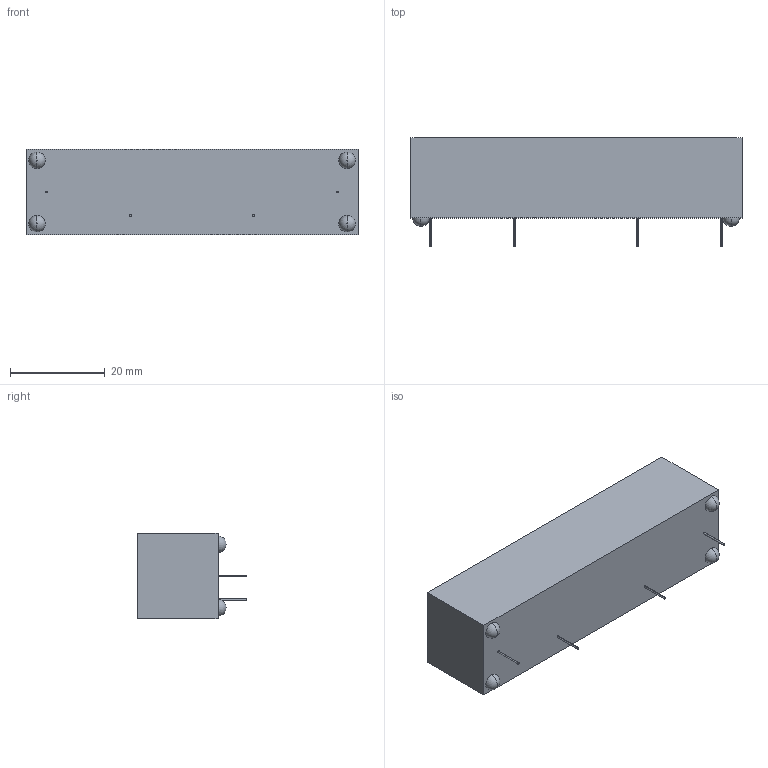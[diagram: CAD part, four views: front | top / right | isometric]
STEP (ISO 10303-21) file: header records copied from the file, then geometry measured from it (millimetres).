
FILE_DESCRIPTION (( 'STEP AP203' ), '1' );
FILE_NAME ('RA1NAC3.STEP', '2019-07-05T17:44:05', ( '' ), ( '' ), 'SwSTEP 2.0', 'SolidWorks 2012', '' );
FILE_SCHEMA (( 'CONFIG_CONTROL_DESIGN' ));
Length unit declared in the file: millimetre
Products named in the file (1): RA1NAC3
Bounding box: 70.2 x 23 x 18 mm (x, y, z)
Volume: 20453.9 mm3; surface area: 5761.3 mm2
Topology: 1 solids, 1 shells, 35 faces, 72 edges, 48 vertices
Faces by surface type: plane 19, cylinder 8, torus 8
Entity records: 1023 total; most frequent: DIRECTION 184, CARTESIAN_POINT 156, ORIENTED_EDGE 144, AXIS2_PLACEMENT_3D 76, EDGE_CURVE 72, VERTEX_POINT 48, EDGE_LOOP 44, CIRCLE 40
